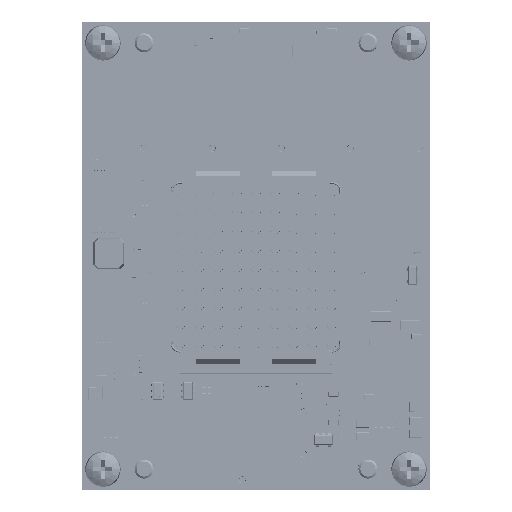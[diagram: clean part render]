
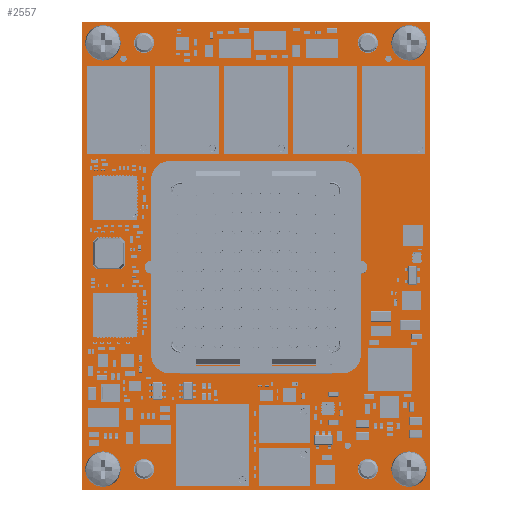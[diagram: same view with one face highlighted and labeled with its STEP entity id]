
A CAD part, top view. The second image highlights one B-rep face of the part: STEP entity #2557.
In plain terms, the highlighted planar face has unit normal (0, 0, 1).
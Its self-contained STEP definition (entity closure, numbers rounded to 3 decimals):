
#2140 = VERTEX_POINT('',#2141);
#2141 = CARTESIAN_POINT('',(0.,0.,1.88));
#2147 = EDGE_CURVE('',#2140,#2148,#2150,.T.);
#2148 = VERTEX_POINT('',#2149);
#2149 = CARTESIAN_POINT('',(0.,74.,1.88));
#2150 = LINE('',#2151,#2152);
#2151 = CARTESIAN_POINT('',(0.,0.,1.88));
#2152 = VECTOR('',#2153,1.);
#2153 = DIRECTION('',(0.,1.,0.));
#2178 = EDGE_CURVE('',#2148,#2179,#2181,.T.);
#2179 = VERTEX_POINT('',#2180);
#2180 = CARTESIAN_POINT('',(55.,74.,1.88));
#2181 = LINE('',#2182,#2183);
#2182 = CARTESIAN_POINT('',(0.,74.,1.88));
#2183 = VECTOR('',#2184,1.);
#2184 = DIRECTION('',(1.,0.,0.));
#2209 = EDGE_CURVE('',#2179,#2210,#2212,.T.);
#2210 = VERTEX_POINT('',#2211);
#2211 = CARTESIAN_POINT('',(55.,0.,1.88));
#2212 = LINE('',#2213,#2214);
#2213 = CARTESIAN_POINT('',(55.,74.,1.88));
#2214 = VECTOR('',#2215,1.);
#2215 = DIRECTION('',(0.,-1.,0.));
#2240 = EDGE_CURVE('',#2210,#2140,#2241,.T.);
#2241 = LINE('',#2242,#2243);
#2242 = CARTESIAN_POINT('',(55.,0.,1.88));
#2243 = VECTOR('',#2244,1.);
#2244 = DIRECTION('',(-1.,0.,0.));
#2264 = VERTEX_POINT('',#2265);
#2265 = CARTESIAN_POINT('',(4.9,3.3,1.88));
#2271 = EDGE_CURVE('',#2264,#2264,#2272,.T.);
#2272 = CIRCLE('',#2273,1.6);
#2273 = AXIS2_PLACEMENT_3D('',#2274,#2275,#2276);
#2274 = CARTESIAN_POINT('',(3.3,3.3,1.88));
#2275 = DIRECTION('',(0.,0.,1.));
#2276 = DIRECTION('',(1.,0.,-0.));
#2297 = VERTEX_POINT('',#2298);
#2298 = CARTESIAN_POINT('',(11.4,3.3,1.88));
#2304 = EDGE_CURVE('',#2297,#2297,#2305,.T.);
#2305 = CIRCLE('',#2306,1.6);
#2306 = AXIS2_PLACEMENT_3D('',#2307,#2308,#2309);
#2307 = CARTESIAN_POINT('',(9.8,3.3,1.88));
#2308 = DIRECTION('',(0.,0.,1.));
#2309 = DIRECTION('',(1.,0.,-0.));
#2330 = VERTEX_POINT('',#2331);
#2331 = CARTESIAN_POINT('',(4.9,70.7,1.88));
#2337 = EDGE_CURVE('',#2330,#2330,#2338,.T.);
#2338 = CIRCLE('',#2339,1.6);
#2339 = AXIS2_PLACEMENT_3D('',#2340,#2341,#2342);
#2340 = CARTESIAN_POINT('',(3.3,70.7,1.88));
#2341 = DIRECTION('',(0.,0.,1.));
#2342 = DIRECTION('',(1.,0.,-0.));
#2363 = VERTEX_POINT('',#2364);
#2364 = CARTESIAN_POINT('',(11.4,70.7,1.88));
#2370 = EDGE_CURVE('',#2363,#2363,#2371,.T.);
#2371 = CIRCLE('',#2372,1.6);
#2372 = AXIS2_PLACEMENT_3D('',#2373,#2374,#2375);
#2373 = CARTESIAN_POINT('',(9.8,70.7,1.88));
#2374 = DIRECTION('',(0.,0.,1.));
#2375 = DIRECTION('',(1.,0.,-0.));
#2396 = VERTEX_POINT('',#2397);
#2397 = CARTESIAN_POINT('',(46.8,3.3,1.88));
#2403 = EDGE_CURVE('',#2396,#2396,#2404,.T.);
#2404 = CIRCLE('',#2405,1.6);
#2405 = AXIS2_PLACEMENT_3D('',#2406,#2407,#2408);
#2406 = CARTESIAN_POINT('',(45.2,3.3,1.88));
#2407 = DIRECTION('',(0.,0.,1.));
#2408 = DIRECTION('',(1.,0.,-0.));
#2429 = VERTEX_POINT('',#2430);
#2430 = CARTESIAN_POINT('',(53.3,3.3,1.88));
#2436 = EDGE_CURVE('',#2429,#2429,#2437,.T.);
#2437 = CIRCLE('',#2438,1.6);
#2438 = AXIS2_PLACEMENT_3D('',#2439,#2440,#2441);
#2439 = CARTESIAN_POINT('',(51.7,3.3,1.88));
#2440 = DIRECTION('',(0.,0.,1.));
#2441 = DIRECTION('',(1.,0.,-0.));
#2462 = VERTEX_POINT('',#2463);
#2463 = CARTESIAN_POINT('',(46.8,70.7,1.88));
#2469 = EDGE_CURVE('',#2462,#2462,#2470,.T.);
#2470 = CIRCLE('',#2471,1.6);
#2471 = AXIS2_PLACEMENT_3D('',#2472,#2473,#2474);
#2472 = CARTESIAN_POINT('',(45.2,70.7,1.88));
#2473 = DIRECTION('',(0.,0.,1.));
#2474 = DIRECTION('',(1.,0.,-0.));
#2495 = VERTEX_POINT('',#2496);
#2496 = CARTESIAN_POINT('',(53.3,70.7,1.88));
#2502 = EDGE_CURVE('',#2495,#2495,#2503,.T.);
#2503 = CIRCLE('',#2504,1.6);
#2504 = AXIS2_PLACEMENT_3D('',#2505,#2506,#2507);
#2505 = CARTESIAN_POINT('',(51.7,70.7,1.88));
#2506 = DIRECTION('',(0.,0.,1.));
#2507 = DIRECTION('',(1.,0.,-0.));
#2557 = ADVANCED_FACE('',(#2558,#2564,#2567,#2570,#2573,#2576,#2579,
    #2582,#2585),#2588,.F.);
#2558 = FACE_BOUND('',#2559,.F.);
#2559 = EDGE_LOOP('',(#2560,#2561,#2562,#2563));
#2560 = ORIENTED_EDGE('',*,*,#2147,.T.);
#2561 = ORIENTED_EDGE('',*,*,#2178,.T.);
#2562 = ORIENTED_EDGE('',*,*,#2209,.T.);
#2563 = ORIENTED_EDGE('',*,*,#2240,.T.);
#2564 = FACE_BOUND('',#2565,.F.);
#2565 = EDGE_LOOP('',(#2566));
#2566 = ORIENTED_EDGE('',*,*,#2271,.T.);
#2567 = FACE_BOUND('',#2568,.F.);
#2568 = EDGE_LOOP('',(#2569));
#2569 = ORIENTED_EDGE('',*,*,#2304,.T.);
#2570 = FACE_BOUND('',#2571,.F.);
#2571 = EDGE_LOOP('',(#2572));
#2572 = ORIENTED_EDGE('',*,*,#2337,.T.);
#2573 = FACE_BOUND('',#2574,.F.);
#2574 = EDGE_LOOP('',(#2575));
#2575 = ORIENTED_EDGE('',*,*,#2370,.T.);
#2576 = FACE_BOUND('',#2577,.F.);
#2577 = EDGE_LOOP('',(#2578));
#2578 = ORIENTED_EDGE('',*,*,#2403,.T.);
#2579 = FACE_BOUND('',#2580,.F.);
#2580 = EDGE_LOOP('',(#2581));
#2581 = ORIENTED_EDGE('',*,*,#2436,.T.);
#2582 = FACE_BOUND('',#2583,.F.);
#2583 = EDGE_LOOP('',(#2584));
#2584 = ORIENTED_EDGE('',*,*,#2469,.T.);
#2585 = FACE_BOUND('',#2586,.F.);
#2586 = EDGE_LOOP('',(#2587));
#2587 = ORIENTED_EDGE('',*,*,#2502,.T.);
#2588 = PLANE('',#2589);
#2589 = AXIS2_PLACEMENT_3D('',#2590,#2591,#2592);
#2590 = CARTESIAN_POINT('',(27.5,37.,1.88));
#2591 = DIRECTION('',(-0.,-0.,-1.));
#2592 = DIRECTION('',(-1.,0.,0.));
